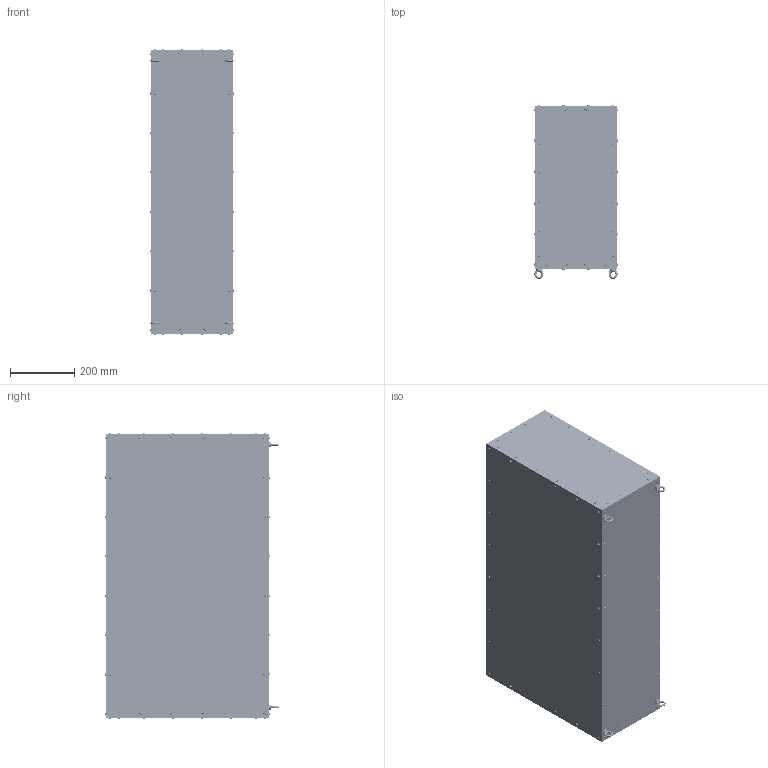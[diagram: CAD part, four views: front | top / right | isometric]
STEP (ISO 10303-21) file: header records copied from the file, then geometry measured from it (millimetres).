
FILE_DESCRIPTION (( 'STEP AP214' ), '1' );
FILE_NAME ('FAU-BOITE2-02 20x20 875x300x500.STEP', '2025-08-06T14:42:19', ( '' ), ( '' ), 'SwSTEP 2.0', 'SolidWorks 2017', '' );
FILE_SCHEMA (( 'AUTOMOTIVE_DESIGN' ));
Length unit declared in the file: millimetre
Products named in the file (13): vis M4-8; base06b0001 Profilé 20x20 mm - 6 mm_875; Z_E-MAURIN_anneau de levage_modèle 18-01_18-011-6; panneau 2 boite 2 20x20_2; panneau 1 boite 1 20x20 300x500_2; base06b0001 Profilé 20x20 mm - 6 mm_210; FAU-BOITE2-02 20x20 875x300x500; fixe06b1127 Ecrou coulisseau - 6 St - M6 - 6 mm; base06b0001 Profilé 20x20 mm - 6 mm_460; fixe06b1125 Ecrou coulisseau - 6 St - M4 - 6 mm_90; panneau 3 boite 2 20x20_2; fixe06b1219 Kit équerre - 6 mm - 20x20x20; fixe06b1125 Ecrou coulisseau - 6 St - M4 - 6 mm
Assembly tree (306 placements, depth 2):
  FAU-BOITE2-02 20x20 875x300x500
    base06b0001 Profilé 20x20 mm - 6 mm_875  x4
    base06b0001 Profilé 20x20 mm - 6 mm_460  x4
    base06b0001 Profilé 20x20 mm - 6 mm_210  x4
    fixe06b1219 Kit équerre - 6 mm - 20x20x20  x24
    panneau 2 boite 2 20x20_2  x2
    panneau 1 boite 1 20x20 300x500_2  x2
    panneau 3 boite 2 20x20_2  x2
    fixe06b1125 Ecrou coulisseau - 6 St - M4 - 6 mm  x96
    vis M4-8  x128
    fixe06b1125 Ecrou coulisseau - 6 St - M4 - 6 mm_90  x32
    fixe06b1127 Ecrou coulisseau - 6 St - M6 - 6 mm  x4
    Z_E-MAURIN_anneau de levage_modèle 18-01_18-011-6  x4
Bounding box: 260.4 x 539.2 x 885.4 mm (x, y, z)
Volume: 5894957.1 mm3; surface area: 4453753.9 mm2
Topology: 402 solids, 402 shells, 12200 faces, 34236 edges, 22504 vertices
Faces by surface type: plane 6144, cylinder 5144, cone 720, bspline 176, torus 16
Entity records: 35982 total; most frequent: CARTESIAN_POINT 6262, DIRECTION 5997, ORIENTED_EDGE 5308, EDGE_CURVE 2654, AXIS2_PLACEMENT_3D 2216, VERTEX_POINT 1769, LINE 1565, VECTOR 1565
